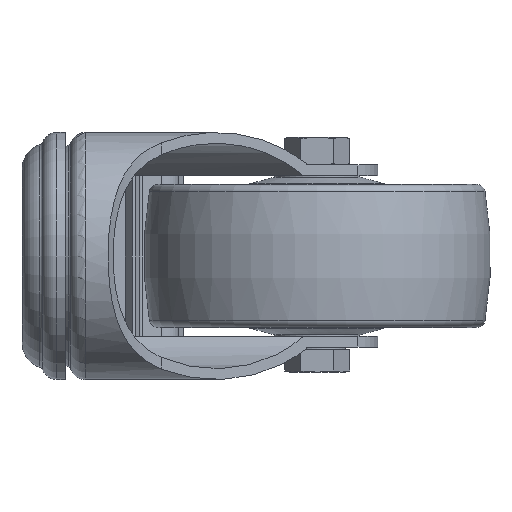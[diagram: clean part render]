
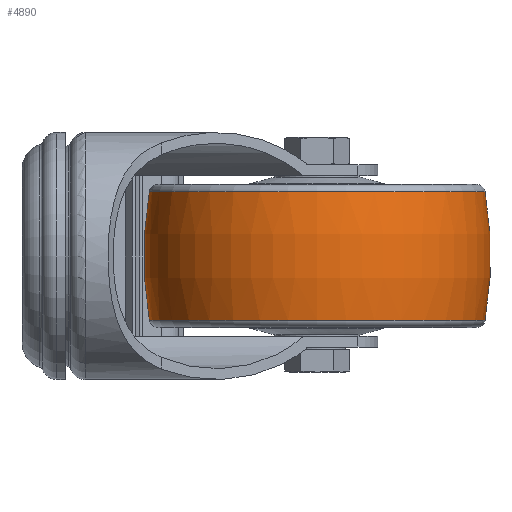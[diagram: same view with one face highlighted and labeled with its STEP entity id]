
A CAD part, left-side view. The second image highlights one B-rep face of the part: STEP entity #4890.
In plain terms, the highlighted toroidal (fillet/blend) face has major radius 45.878 mm and minor radius 85.878 mm.
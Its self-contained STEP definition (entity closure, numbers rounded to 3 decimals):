
#882=DEGENERATE_TOROIDAL_SURFACE('',#5278,45.878,85.878,
 .F.);
#1189=ORIENTED_EDGE('',*,*,#2610,.T.);
#1190=ORIENTED_EDGE('',*,*,#2609,.F.);
#2609=EDGE_CURVE('',#3330,#3330,#3824,.T.);
#2610=EDGE_CURVE('',#3331,#3331,#3825,.T.);
#3330=VERTEX_POINT('',#7368);
#3331=VERTEX_POINT('',#7371);
#3824=CIRCLE('',#5277,38.707);
#3825=CIRCLE('',#5279,38.707);
#4073=EDGE_LOOP('',(#1189));
#4074=EDGE_LOOP('',(#1190));
#4456=FACE_BOUND('',#4073,.T.);
#4457=FACE_BOUND('',#4074,.T.);
#4890=ADVANCED_FACE('',(#4456,#4457),#882,.F.);
#5277=AXIS2_PLACEMENT_3D('',#7367,#5890,#5891);
#5278=AXIS2_PLACEMENT_3D('',#7369,#5892,#5893);
#5279=AXIS2_PLACEMENT_3D('',#7370,#5894,#5895);
#5890=DIRECTION('',(1.,0.,0.));
#5891=DIRECTION('',(0.,0.,-1.));
#5892=DIRECTION('',(1.,0.,0.));
#5893=DIRECTION('',(0.,0.,-1.));
#5894=DIRECTION('',(1.,0.,0.));
#5895=DIRECTION('',(0.,0.,-1.));
#7367=CARTESIAN_POINT('',(14.846,0.,0.));
#7368=CARTESIAN_POINT('',(14.846,0.,-38.707));
#7369=CARTESIAN_POINT('',(0.,0.,0.));
#7370=CARTESIAN_POINT('',(-14.846,0.,0.));
#7371=CARTESIAN_POINT('',(-14.846,0.,-38.707));
